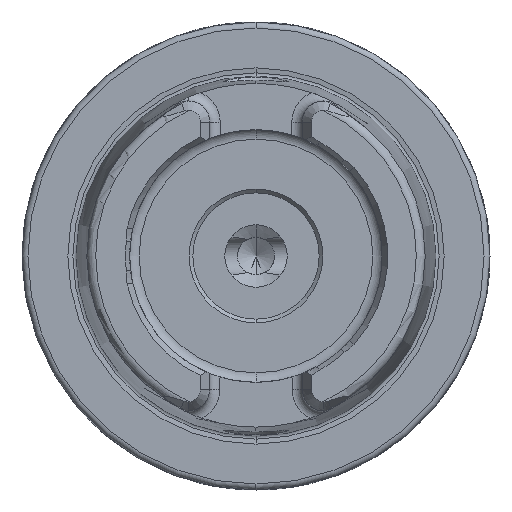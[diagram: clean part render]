
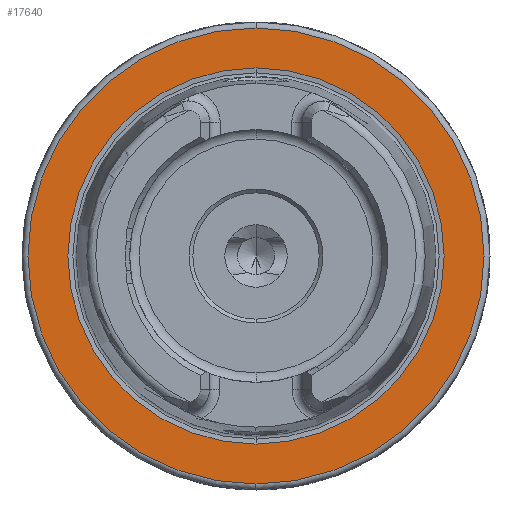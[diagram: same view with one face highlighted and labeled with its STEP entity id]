
A CAD part, left-side view. The second image highlights one B-rep face of the part: STEP entity #17640.
In plain terms, the highlighted planar face has unit normal (-1, 0, 0).
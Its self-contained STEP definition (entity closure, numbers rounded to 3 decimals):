
#150 = DIRECTION ( 'NONE',  ( -1., 0., 0. ) ) ;
#158 = FACE_OUTER_BOUND ( 'NONE', #4159, .T. ) ;
#766 = CARTESIAN_POINT ( 'NONE',  ( 0., 0., 0. ) ) ;
#1919 = DIRECTION ( 'NONE',  ( 0., 0., -1. ) ) ;
#2426 = CARTESIAN_POINT ( 'NONE',  ( 0., 0., 25.324 ) ) ;
#2829 = DIRECTION ( 'NONE',  ( 0., 0., 1. ) ) ;
#4159 = EDGE_LOOP ( 'NONE', ( #11452, #9883 ) ) ;
#5218 = VERTEX_POINT ( 'NONE', #13337 ) ;
#5269 = EDGE_CURVE ( 'NONE', #13655, #12713, #21267, .T. ) ;
#5681 = DIRECTION ( 'NONE',  ( 0., 0., 1. ) ) ;
#7602 = DIRECTION ( 'NONE',  ( -1., 0., 0. ) ) ;
#7856 = DIRECTION ( 'NONE',  ( 0., 0., 1. ) ) ;
#9336 = PLANE ( 'NONE',  #20404 ) ;
#9883 = ORIENTED_EDGE ( 'NONE', *, *, #22705, .T. ) ;
#10815 = CARTESIAN_POINT ( 'NONE',  ( 0., 0., 0. ) ) ;
#10857 = DIRECTION ( 'NONE',  ( 1., 0., 0. ) ) ;
#11452 = ORIENTED_EDGE ( 'NONE', *, *, #12326, .T. ) ;
#12326 = EDGE_CURVE ( 'NONE', #18353, #5218, #13763, .T. ) ;
#12713 = VERTEX_POINT ( 'NONE', #21820 ) ;
#13337 = CARTESIAN_POINT ( 'NONE',  ( 0., 0., -30.7 ) ) ;
#13655 = VERTEX_POINT ( 'NONE', #2426 ) ;
#13756 = CIRCLE ( 'NONE', #20951, 30.7 ) ;
#13763 = CIRCLE ( 'NONE', #23320, 30.7 ) ;
#13894 = ORIENTED_EDGE ( 'NONE', *, *, #23310, .F. ) ;
#17060 = DIRECTION ( 'NONE',  ( 0., 0., 1. ) ) ;
#17565 = DIRECTION ( 'NONE',  ( -1., 0., 0. ) ) ;
#17640 = ADVANCED_FACE ( 'NONE', ( #23746, #158 ), #9336, .F. ) ;
#17643 = CARTESIAN_POINT ( 'NONE',  ( 0., 0., 0. ) ) ;
#17749 = ORIENTED_EDGE ( 'NONE', *, *, #5269, .F. ) ;
#17791 = CIRCLE ( 'NONE', #22375, 25.324 ) ;
#18353 = VERTEX_POINT ( 'NONE', #22871 ) ;
#19329 = AXIS2_PLACEMENT_3D ( 'NONE', #766, #20861, #17060 ) ;
#20404 = AXIS2_PLACEMENT_3D ( 'NONE', #20408, #10857, #1919 ) ;
#20408 = CARTESIAN_POINT ( 'NONE',  ( 0., 30.7, 0. ) ) ;
#20861 = DIRECTION ( 'NONE',  ( -1., 0., 0. ) ) ;
#20951 = AXIS2_PLACEMENT_3D ( 'NONE', #22637, #150, #7856 ) ;
#21267 = CIRCLE ( 'NONE', #19329, 25.324 ) ;
#21820 = CARTESIAN_POINT ( 'NONE',  ( 0., 0., -25.324 ) ) ;
#22375 = AXIS2_PLACEMENT_3D ( 'NONE', #10815, #7602, #5681 ) ;
#22637 = CARTESIAN_POINT ( 'NONE',  ( 0., 0., 0. ) ) ;
#22705 = EDGE_CURVE ( 'NONE', #5218, #18353, #13756, .T. ) ;
#22871 = CARTESIAN_POINT ( 'NONE',  ( 0., 0., 30.7 ) ) ;
#23310 = EDGE_CURVE ( 'NONE', #12713, #13655, #17791, .T. ) ;
#23320 = AXIS2_PLACEMENT_3D ( 'NONE', #17643, #17565, #2829 ) ;
#23373 = EDGE_LOOP ( 'NONE', ( #17749, #13894 ) ) ;
#23746 = FACE_BOUND ( 'NONE', #23373, .T. ) ;
